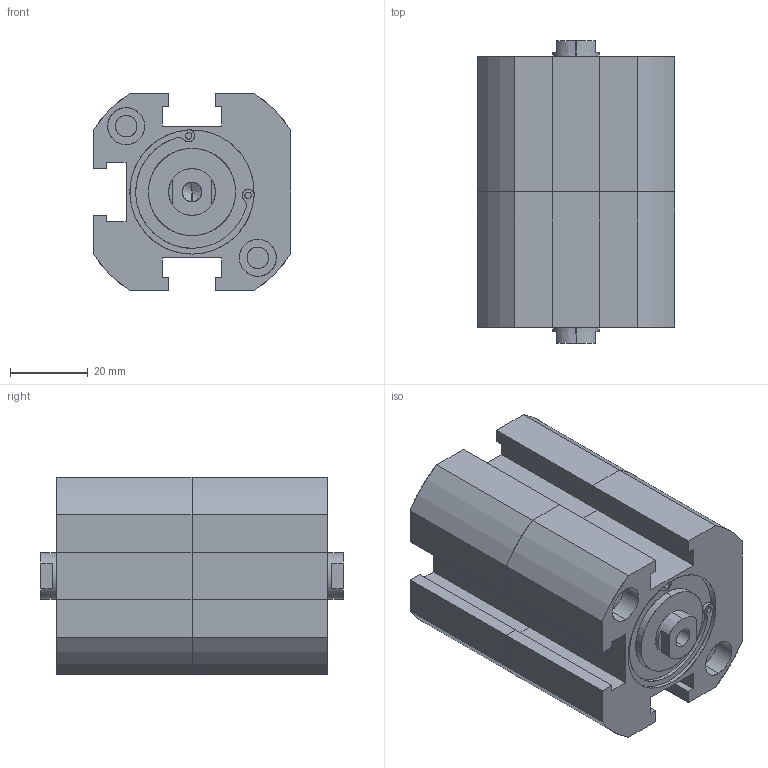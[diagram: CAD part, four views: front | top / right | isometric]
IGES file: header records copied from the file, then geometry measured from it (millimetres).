
Start section: SolidWorks IGES file using analytic representation for surfaces
Global section: file name: C:\Users\Toshiba\Desktop\XCD7-32-10-10.IGS; native system: SolidWorks 2014; preprocessor: SolidWorks 2014; author: Toshiba; date: 160805.093914; units: millimetre
Bounding box: 51 x 78 x 51 mm (x, y, z)
Surface area: 31542.7 mm2 (no closed solid volume)
Topology: 0 solids, 0 shells, 196 faces, 3004 edges, 2992 vertices
Faces by surface type: revolution 104, bspline 92
